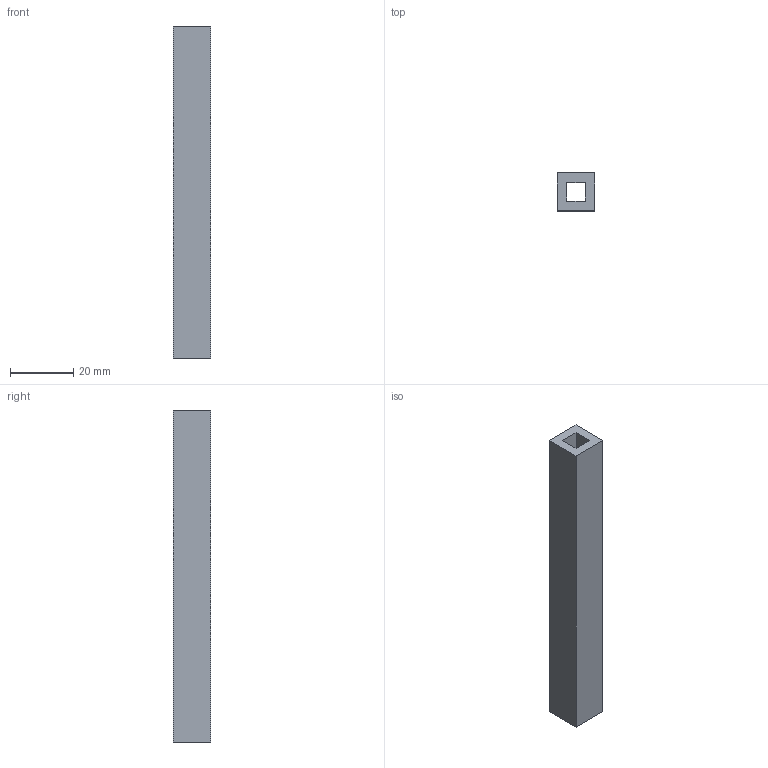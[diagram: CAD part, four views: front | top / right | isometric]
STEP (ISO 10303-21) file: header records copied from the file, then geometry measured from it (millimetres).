
FILE_DESCRIPTION(('Open CASCADE Model'),'2;1');
FILE_NAME('Open CASCADE Shape Model','2026-10-04T01:02:25',('Author'),( 'Open CASCADE'),'Open CASCADE STEP processor 8.0','Open CASCADE 8.0' ,'Unknown');
FILE_SCHEMA(('AUTOMOTIVE_DESIGN { 1 0 10303 214 1 1 1 1 }'));
Length unit declared in the file: millimetre
Products named in the file (1): Open CASCADE STEP translator 8.0 65
Bounding box: 12 x 12 x 105 mm (x, y, z)
Volume: 11340 mm3; surface area: 7776 mm2
Topology: 1 solids, 1 shells, 10 faces, 24 edges, 16 vertices
Faces by surface type: plane 10
Entity records: 598 total; most frequent: CARTESIAN_POINT 115, DIRECTION 78, LINE 56, VECTOR 56, ORIENTED_EDGE 48, PCURVE 48, DEFINITIONAL_REPRESENTATION 48, EDGE_CURVE 24
